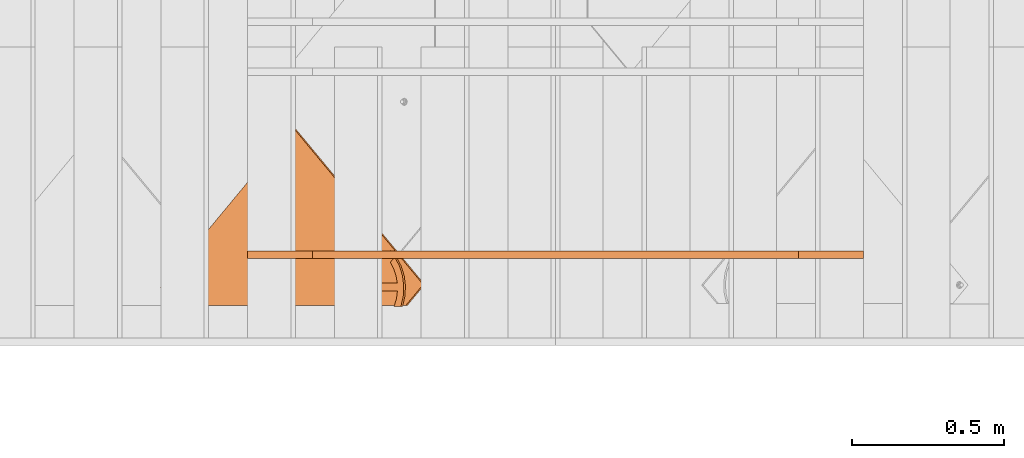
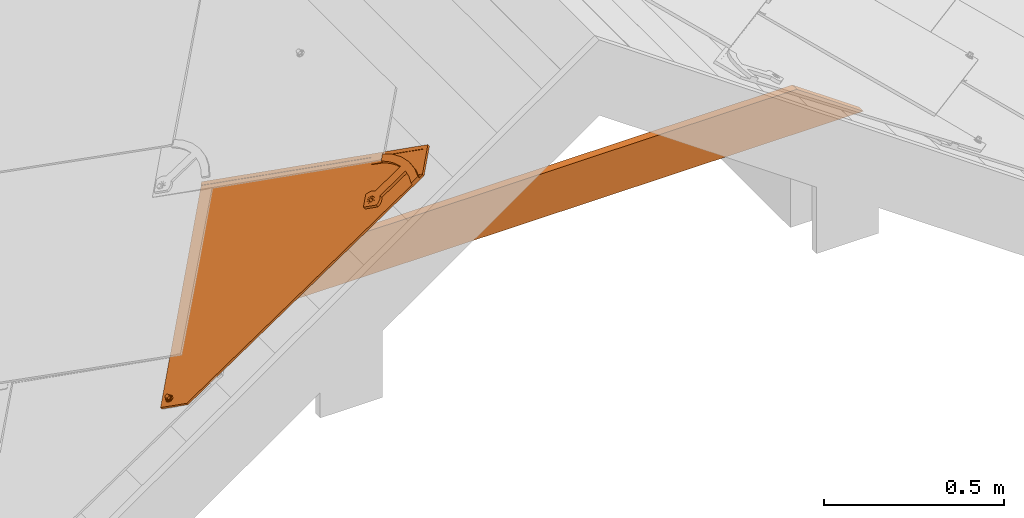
# One storey, part 13 of 151: 2 proxies, 1 element without a shape of its own.
"""IFC2X3 building model written with IfcOpenShell, lengths in millimetres."""

from ifc_helpers import new_model, entity, si_unit, converted_unit, derived_unit, direction, frame, origin, place, context, subcontext, project, spatial, polyline, outline, extrude, faceted_brep, source, transform, mapped, material, material_list, type_object, type_shapes, element, aggregate, save


model = new_model("IFC2X3")

# Units and contexts
model_context = context("Model", 3, precision=0.01, world=origin(), true_north=direction((6.12303176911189e-17, 1.0)))
body_context = subcontext(model_context, "Body", "Model", "MODEL_VIEW")
ifc_project = project(units=[si_unit("LENGTHUNIT", "METRE", prefix="MILLI"), si_unit("AREAUNIT", "SQUARE_METRE"), si_unit("VOLUMEUNIT", "CUBIC_METRE"), converted_unit("PLANEANGLEUNIT", "DEGREE", entity("IfcRatioMeasure", 0.0174532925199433), si_unit("PLANEANGLEUNIT", "RADIAN"), dimensions=[0, 0, 0, 0, 0, 0, 0]), si_unit("MASSUNIT", "GRAM", prefix="KILO"), derived_unit("MASSDENSITYUNIT", [(si_unit("MASSUNIT", "GRAM", prefix="KILO"), 1), (si_unit("LENGTHUNIT", "METRE"), -3)]), si_unit("TIMEUNIT", "SECOND"), si_unit("FREQUENCYUNIT", "HERTZ"), si_unit("THERMODYNAMICTEMPERATUREUNIT", "DEGREE_CELSIUS"), derived_unit("THERMALTRANSMITTANCEUNIT", [(si_unit("MASSUNIT", "GRAM", prefix="KILO"), 1), (si_unit("THERMODYNAMICTEMPERATUREUNIT", "KELVIN"), -1), (si_unit("TIMEUNIT", "SECOND"), -3)]), derived_unit("VOLUMETRICFLOWRATEUNIT", [(si_unit("LENGTHUNIT", "METRE"), 3), (si_unit("TIMEUNIT", "SECOND"), -1)]), si_unit("ELECTRICCURRENTUNIT", "AMPERE"), si_unit("ELECTRICVOLTAGEUNIT", "VOLT"), si_unit("POWERUNIT", "WATT"), si_unit("FORCEUNIT", "NEWTON", prefix="KILO"), si_unit("ILLUMINANCEUNIT", "LUX"), si_unit("LUMINOUSFLUXUNIT", "LUMEN"), si_unit("LUMINOUSINTENSITYUNIT", "CANDELA"), derived_unit("USERDEFINED", [(si_unit("MASSUNIT", "GRAM", prefix="KILO"), -1), (si_unit("LENGTHUNIT", "METRE"), -2), (si_unit("TIMEUNIT", "SECOND"), 3), (si_unit("LUMINOUSFLUXUNIT", "LUMEN"), 1)]), derived_unit("LINEARVELOCITYUNIT", [(si_unit("LENGTHUNIT", "METRE"), 1), (si_unit("TIMEUNIT", "SECOND"), -1)]), si_unit("PRESSUREUNIT", "PASCAL"), derived_unit("USERDEFINED", [(si_unit("LENGTHUNIT", "METRE"), -2), (si_unit("MASSUNIT", "GRAM", prefix="KILO"), 1), (si_unit("TIMEUNIT", "SECOND"), -2)])], contexts=[model_context])

# Site, building, storey
site_placement = place(None, origin())
site = spatial("IfcSite", under=ifc_project, at=site_placement, Name="Default", CompositionType="ELEMENT")
building_placement = place(site_placement, origin())
building = spatial("IfcBuilding", under=site, at=building_placement, CompositionType="ELEMENT")
storey_placement = place(building_placement, origin())
storey = spatial("IfcBuildingStorey", under=building, at=storey_placement, Name="Level 1", CompositionType="ELEMENT", Elevation=0.0)

# Assembly, proxy
assembly_placement = place(storey_placement, origin())
assembly = element("IfcElementAssembly", 1, at=assembly_placement, inside=storey, Name="Structural Framing Assembly:Roof Construction Assembly", ObjectType="Structural Framing Assembly:Roof Construction Assembly", AssemblyPlace="NOTDEFINED", PredefinedType="USERDEFINED")
ifc_material_1 = material(Name="Wood - Generic - Wood For Showcase")
building_element_proxy_type_1 = type_object("IfcBuildingElementProxyType", Name="Structural Framing 296", PredefinedType="NOTDEFINED", material=ifc_material_1)
shared_shape_1 = source(origin(), body_context, "Body", "SweptSolid", [
    extrude(outline(polyline([(-1014.04699829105, -75.0), (1014.04699829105, -75.0), (799.824797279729, 75.0), (-799.824797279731, 75.0), (-1014.04699829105, -75.0)])), frame((1206.77890726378, 2325.55080214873, 2164.95664769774), z_axis=(0.0, 1.0, 0.0), x_axis=(-1.0, 0.0, 0.0)), (0.0, 0.0, 1.0), 25.0),
])
type_shapes(building_element_proxy_type_1, [shared_shape_1])
proxy_1_placement = place(assembly_placement, frame((57.4878711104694, -8767.49999999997, 0.0)))
proxy_1 = element("IfcBuildingElementProxy", 2, at=proxy_1_placement, type_object=building_element_proxy_type_1, material=ifc_material_1, Name="Structural Framing 322:Structural Framing 296", ObjectType="Structural Framing 322:Structural Framing 296", context=body_context, shape_type="MappedRepresentation", body=[
    mapped(shared_shape_1, transform((0.0, 0.0, 0.0), scale=1.0)),
])
aggregate(assembly, [proxy_1])

# Proxy
ifc_material_2 = material(Name="Rubber - Sunstyle - Black")
ifc_material_3 = material(Name="Glass - Sunstyle - Tainted Black")
ifc_material_list_1 = material_list([ifc_material_2, ifc_material_3])
ifc_material_list_2 = material_list([ifc_material_2, ifc_material_3])
building_element_proxy_type_2 = type_object("IfcBuildingElementProxyType", Name="Shingle Right - Black", PredefinedType="NOTDEFINED", material=ifc_material_list_2)
shared_shape_2 = source(origin(), body_context, "Body", "Brep", [
    faceted_brep([(526.70519509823, 41.3127833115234, 3.87722628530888), (520.930992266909, 37.9795131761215, 3.9330502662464), (520.930992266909, 38.34782226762, 25.9249196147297), (526.70519509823, 41.6810924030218, 25.8690956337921), (520.930992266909, 31.3129729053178, 4.0446982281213), (520.930992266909, 31.6812819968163, 26.0365675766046), (526.70519509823, 27.979702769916, 4.1005222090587), (526.70519509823, 28.3480118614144, 26.092391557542), (532.47939792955, 31.3129729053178, 4.04469822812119), (532.47939792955, 31.6812819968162, 26.0365675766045), (532.47939792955, 37.9795131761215, 3.93305026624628), (532.47939792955, 38.3478222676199, 25.9249196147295), (518.101490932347, 26.4120542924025, 26.1248140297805), (526.70519509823, 22.8487830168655, 26.1844899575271), (514.537719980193, 35.0145521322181, 25.9807435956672), (518.101490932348, 43.6170499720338, 25.8366731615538), (526.70519509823, 47.1803212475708, 25.776997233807), (535.308899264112, 43.6170499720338, 25.8366731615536), (538.872670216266, 35.0145521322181, 25.9807435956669), (535.308899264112, 26.4120542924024, 26.1248140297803), (515.380950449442, 37.3096292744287, 28.2935855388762), (516.94872054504, 35.0855670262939, 30.2210682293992), (526.70519509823, 42.3986422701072, 30.8537686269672), (526.70519509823, 43.6391399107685, 30.2734219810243), (526.70519509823, 45.7966907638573, 29.2640469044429), (526.70519509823, 23.4048270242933, 27.4595479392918), (526.70519509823, 24.3484036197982, 29.6232523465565), (526.70519509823, 27.7977793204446, 31.0982967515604), (526.70519509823, 46.6672851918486, 27.0699596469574), (520.381949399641, 31.4479950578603, 31.0371647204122), (520.381949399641, 38.7484265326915, 30.9149006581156), (538.029439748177, 32.7982090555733, 28.3691406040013), (536.554075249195, 34.0111605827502, 30.1422000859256), (533.028440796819, 38.7484265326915, 30.9149006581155), (533.028440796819, 31.4479950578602, 31.0371647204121), (520.381949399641, 31.5820235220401, 39.0400528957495), (526.70519509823, 27.9318077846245, 39.1011849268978), (526.70519509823, 35.2322392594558, 38.9789208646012), (520.381949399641, 38.8824549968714, 38.9177888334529), (533.028440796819, 31.5820235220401, 39.0400528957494), (533.028440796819, 38.8824549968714, 38.9177888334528), (526.70519509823, 42.532670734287, 38.8566568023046), (526.70519509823, 34.6462430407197, 3.98887424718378)], [[[0, 1, 2, 3]], [[1, 4, 5, 2]], [[4, 6, 7, 5]], [[6, 8, 9, 7]], [[8, 10, 11, 9]], [[10, 0, 3, 11]], [[12, 7, 13]], [[7, 12, 5]], [[14, 5, 12]], [[5, 14, 2]], [[15, 2, 14]], [[3, 2, 15]], [[15, 16, 3]], [[16, 17, 3]], [[11, 3, 17]], [[11, 17, 18]], [[9, 11, 18]], [[18, 19, 9]], [[7, 9, 19]], [[19, 13, 7]], [[20, 14, 12]], [[21, 22, 23, 24]], [[24, 20, 21]], [[25, 20, 12]], [[26, 27, 21]], [[15, 14, 20]], [[12, 13, 25]], [[20, 28, 15]], [[28, 20, 24]], [[21, 27, 29]], [[21, 29, 30]], [[26, 21, 20]], [[20, 25, 26]], [[15, 28, 16]], [[21, 30, 22]], [[31, 18, 17]], [[28, 31, 17]], [[32, 27, 26]], [[26, 31, 32]], [[26, 25, 31]], [[25, 19, 31]], [[17, 16, 28]], [[31, 19, 18]], [[24, 31, 28]], [[33, 34, 32]], [[23, 22, 33]], [[24, 32, 31]], [[27, 32, 34]], [[32, 23, 33]], [[19, 25, 13]], [[32, 24, 23]], [[35, 36, 37]], [[37, 38, 35]], [[36, 39, 37]], [[40, 37, 39]], [[37, 40, 41]], [[37, 41, 38]], [[42, 6, 4]], [[4, 1, 42]], [[1, 0, 42]], [[42, 8, 6]], [[0, 10, 42]], [[8, 42, 10]], [[22, 30, 38, 41]], [[30, 29, 35, 38]], [[29, 27, 36, 35]], [[27, 34, 39, 36]], [[34, 33, 40, 39]], [[33, 22, 41, 40]]]),
    faceted_brep([(526.70519509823, 811.19100538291, 21.4210230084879), (526.70519509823, 815.690374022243, 21.3456697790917), (518.101490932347, 814.754276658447, 21.3613470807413), (535.308899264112, 814.754276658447, 21.3613470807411), (533.345423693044, 819.523574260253, 21.2814732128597), (538.872670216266, 823.356774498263, 21.2172766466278), (533.345423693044, 827.189974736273, 21.1530800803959), (535.308899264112, 831.959272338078, 21.0732062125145), (526.70519509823, 831.023174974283, 21.0888835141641), (526.70519509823, 835.522543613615, 21.0135302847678), (518.101490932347, 831.959272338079, 21.0732062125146), (520.064966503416, 827.189974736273, 21.1530800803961), (514.537719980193, 823.356774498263, 21.217276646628), (520.064966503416, 819.523574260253, 21.2814732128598), (520.064966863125, 826.922051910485, 5.15532344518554), (526.70519509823, 830.755251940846, 5.09112688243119), (520.064966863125, 819.255651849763, 5.2837165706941), (526.70519509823, 815.422451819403, 5.34791313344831), (533.345423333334, 819.255651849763, 5.28371657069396), (533.345423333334, 826.922051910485, 5.1553234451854), (518.101490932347, 814.486354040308, 5.36359044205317), (526.70519509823, 810.923082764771, 5.4232663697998), (514.537719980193, 823.088851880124, 5.21952000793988), (518.101490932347, 831.69134971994, 5.07544957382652), (526.70519509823, 835.254620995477, 5.01577364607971), (535.308899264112, 831.69134971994, 5.07544957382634), (538.872670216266, 823.088851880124, 5.21952000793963), (535.308899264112, 814.486354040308, 5.36359044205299)], [[[0, 1, 2]], [[1, 0, 3]], [[3, 4, 1]], [[4, 3, 5]], [[6, 4, 5]], [[5, 7, 6]], [[7, 8, 6]], [[8, 7, 9]], [[8, 9, 10]], [[10, 11, 8]], [[12, 11, 10]], [[2, 13, 12]], [[12, 13, 11]], [[13, 2, 1]], [[8, 11, 14, 15]], [[11, 13, 16, 14]], [[13, 1, 17, 16]], [[1, 4, 18, 17]], [[4, 6, 19, 18]], [[6, 8, 15, 19]], [[20, 17, 21]], [[17, 20, 16]], [[22, 16, 20]], [[14, 16, 22]], [[23, 14, 22]], [[15, 14, 23]], [[23, 24, 15]], [[24, 25, 15]], [[19, 15, 25]], [[19, 25, 26]], [[26, 18, 19]], [[26, 27, 18]], [[17, 18, 27]], [[27, 21, 17]], [[24, 23, 10, 9]], [[10, 23, 22, 12]], [[20, 21, 0, 2]], [[20, 2, 12, 22]], [[21, 27, 3, 0]], [[3, 27, 26, 5]], [[25, 24, 9, 7]], [[25, 7, 5, 26]]]),
    faceted_brep([(578.30986553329, 967.15023469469, 8.79467739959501), (586.794551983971, 975.634921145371, 8.65258001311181), (586.794551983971, 975.660038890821, 10.1523696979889), (578.30986553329, 967.17535244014, 10.294467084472), (517.891471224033, 1027.55168765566, 7.7831033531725), (8.48468645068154, 518.287740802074, 16.3120073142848), (0.0, 526.772427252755, 16.1699099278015), (517.891471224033, 1044.51868144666, 7.49894842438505), (517.891471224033, 1044.54379919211, 8.99873810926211), (0.0, 526.797544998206, 17.6696996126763), (8.4846864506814, 518.312858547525, 17.8117969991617), (517.891471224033, 1027.57680540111, 9.28289303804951)], [[[0, 1, 2, 3]], [[1, 0, 4, 5, 6, 7]], [[2, 1, 7, 8]], [[3, 2, 8, 9, 10, 11]], [[0, 3, 11, 4]], [[5, 10, 9, 6]], [[8, 7, 6, 9]], [[4, 11, 10, 5]]]),
    faceted_brep([(586.794551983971, 975.634921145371, 8.65258001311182), (517.891471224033, 1044.51868144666, 7.49894842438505), (523.812678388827, 834.561085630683, 11.0152157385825), (526.918506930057, 834.969918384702, 11.0083688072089), (530.024335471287, 834.561085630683, 11.0152157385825), (532.918506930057, 833.362448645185, 11.0352899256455), (535.403788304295, 831.455692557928, 11.0672233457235), (537.31081177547, 828.970759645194, 11.1088397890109), (538.509616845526, 826.076993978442, 11.1573031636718), (538.918506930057, 822.971600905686, 11.2093107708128), (538.509616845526, 819.86620783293, 11.2613183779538), (586.79455198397, 60.1087646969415, 23.9853651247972), (520.918506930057, 833.362448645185, 11.0352899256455), (518.433225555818, 831.455692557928, 11.0672233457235), (516.526202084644, 828.970759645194, 11.1088397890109), (515.327397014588, 826.076993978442, 11.1573031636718), (0.0, 526.772427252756, 16.1699099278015), (514.918506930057, 822.971600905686, 11.2093107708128), (515.327397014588, 819.86620783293, 11.2613183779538), (516.526202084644, 816.972442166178, 11.3097817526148), (518.433225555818, 814.487509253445, 11.3513981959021), (520.918506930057, 812.580753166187, 11.3833316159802), (523.812678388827, 811.382116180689, 11.4034058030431), (524.667140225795, 42.642731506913, 24.2778777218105), (522.737692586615, 41.8436401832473, 24.2912605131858), (521.080838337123, 40.572469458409, 24.3125494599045), (519.80948935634, 38.9158475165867, 24.3402937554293), (519.010285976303, 36.9866704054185, 24.37260267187), (518.737692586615, 34.9164083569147, 24.407274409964), (519.010285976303, 32.8461463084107, 24.441946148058), (526.794551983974, 0.125588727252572, 24.989934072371), (519.80948935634, 30.9169691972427, 24.4742550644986), (533.665895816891, 30.9169691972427, 24.4742550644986), (532.394546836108, 29.2603472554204, 24.5019993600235), (530.737692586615, 27.9891765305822, 24.5232883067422), (528.808244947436, 27.1900852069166, 24.5366710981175), (526.737692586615, 26.9175300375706, 24.5412357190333), (524.667140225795, 27.1900852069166, 24.5366710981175), (522.737692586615, 27.9891765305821, 24.5232883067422), (521.080838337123, 29.2603472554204, 24.5019993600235), (526.737692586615, 42.9152866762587, 24.2733131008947), (528.808244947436, 42.6427315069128, 24.2778777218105), (530.737692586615, 41.8436401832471, 24.2912605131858), (532.394546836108, 40.572469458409, 24.3125494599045), (533.665895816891, 38.9158475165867, 24.3402937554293), (534.465099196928, 36.9866704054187, 24.37260267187), (534.737692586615, 34.9164083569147, 24.407274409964), (534.465099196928, 32.8461463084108, 24.441946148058), (526.918506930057, 810.97328342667, 11.4102527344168), (537.31081177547, 816.972442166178, 11.3097817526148), (535.403788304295, 814.487509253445, 11.3513981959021), (532.918506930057, 812.580753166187, 11.3833316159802), (530.024335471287, 811.382116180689, 11.4034058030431), (0.0, 526.646838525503, 8.67096150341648), (519.80948935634, 38.790258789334, 16.8413453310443), (519.010285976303, 36.8610816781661, 16.8736542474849), (521.080838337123, 40.4468807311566, 16.8136010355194), (518.737692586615, 34.7908196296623, 16.9083259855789), (519.010285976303, 32.7205575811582, 16.9429977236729), (526.794551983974, 0.0, 17.4909856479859), (522.737692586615, 41.7180514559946, 16.7923120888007), (524.667140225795, 42.5171427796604, 16.7789292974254), (523.812678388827, 811.256527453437, 3.90445737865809), (520.918506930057, 812.455164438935, 3.88438319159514), (518.433225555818, 814.361920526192, 3.85244977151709), (516.526202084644, 816.846853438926, 3.81083332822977), (515.327397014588, 819.740619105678, 3.76236995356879), (514.918506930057, 822.846012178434, 3.71036234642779), (515.327397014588, 825.95140525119, 3.65835473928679), (517.891471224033, 1044.39309271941, 0.0), (516.526202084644, 828.845170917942, 3.60989136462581), (518.433225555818, 831.330103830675, 3.56827492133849), (520.918506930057, 833.236859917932, 3.53634150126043), (523.812678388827, 834.435496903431, 3.51626731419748), (586.794551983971, 975.509332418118, 1.15363158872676), (526.918506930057, 834.84432965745, 3.50942038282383), (530.024335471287, 834.435496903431, 3.51626731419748), (532.918506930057, 833.236859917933, 3.53634150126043), (535.403788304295, 831.330103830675, 3.56827492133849), (537.31081177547, 828.845170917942, 3.60989136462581), (538.509616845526, 825.95140525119, 3.65835473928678), (538.918506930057, 822.846012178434, 3.71036234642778), (538.509616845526, 819.740619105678, 3.76236995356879), (586.79455198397, 59.983175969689, 16.4864167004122), (526.737692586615, 42.7896979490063, 16.7743646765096), (528.808244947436, 42.5171427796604, 16.7789292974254), (530.737692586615, 41.7180514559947, 16.7923120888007), (532.394546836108, 40.4468807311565, 16.8136010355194), (533.665895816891, 30.7913804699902, 16.9753066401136), (534.465099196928, 32.7205575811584, 16.9429977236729), (534.737692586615, 34.7908196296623, 16.9083259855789), (534.465099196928, 36.8610816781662, 16.8736542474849), (533.665895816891, 38.7902587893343, 16.8413453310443), (526.918506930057, 810.847694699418, 3.91130431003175), (530.024335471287, 811.256527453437, 3.90445737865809), (532.918506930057, 812.455164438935, 3.88438319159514), (535.403788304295, 814.361920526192, 3.85244977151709), (537.31081177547, 816.846853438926, 3.81083332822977), (519.80948935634, 30.7913804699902, 16.9753066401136), (521.080838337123, 29.134758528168, 17.0030509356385), (522.737692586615, 27.8635878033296, 17.0243398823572), (524.667140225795, 27.0644964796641, 17.0377226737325), (526.737692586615, 26.7919413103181, 17.0422872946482), (528.808244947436, 27.0644964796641, 17.0377226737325), (530.737692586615, 27.8635878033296, 17.0243398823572), (532.394546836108, 29.1347585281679, 17.0030509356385)], [[[0, 1, 2]], [[0, 2, 3]], [[3, 4, 0]], [[4, 5, 0]], [[0, 5, 6]], [[6, 7, 0]], [[7, 8, 0]], [[8, 9, 0]], [[9, 10, 0]], [[0, 10, 11]], [[2, 1, 12]], [[13, 12, 1]], [[14, 13, 1]], [[14, 1, 15]], [[15, 1, 16]], [[16, 17, 15]], [[17, 16, 18]], [[19, 18, 16]], [[19, 16, 20]], [[21, 20, 16]], [[22, 21, 16]], [[23, 22, 16]], [[24, 23, 16]], [[16, 25, 24]], [[25, 16, 26]], [[26, 16, 27]], [[28, 27, 16]], [[28, 16, 29]], [[29, 16, 30]], [[30, 31, 29]], [[11, 32, 30]], [[30, 32, 33]], [[34, 30, 33]], [[34, 35, 30]], [[36, 30, 35]], [[30, 36, 37]], [[37, 38, 30]], [[38, 39, 30]], [[39, 31, 30]], [[23, 11, 22]], [[11, 23, 40]], [[11, 40, 41]], [[11, 41, 42]], [[42, 43, 11]], [[44, 11, 43]], [[44, 45, 11]], [[45, 46, 11]], [[47, 11, 46]], [[11, 47, 32]], [[22, 11, 48]], [[10, 49, 11]], [[49, 50, 11]], [[50, 51, 11]], [[51, 52, 11]], [[52, 48, 11]], [[53, 54, 55]], [[54, 53, 56]], [[53, 55, 57]], [[57, 58, 53]], [[53, 58, 59]], [[60, 56, 53]], [[61, 60, 53]], [[61, 53, 62]], [[62, 53, 63]], [[53, 64, 63]], [[64, 53, 65]], [[65, 53, 66]], [[66, 53, 67]], [[67, 53, 68]], [[53, 69, 68]], [[70, 68, 69]], [[71, 70, 69]], [[69, 72, 71]], [[73, 72, 69]], [[73, 69, 74]], [[75, 73, 74]], [[75, 74, 76]], [[77, 76, 74]], [[74, 78, 77]], [[79, 78, 74]], [[80, 79, 74]], [[80, 74, 81]], [[81, 74, 82]], [[82, 74, 83]], [[84, 61, 83]], [[83, 85, 84]], [[86, 85, 83]], [[83, 87, 86]], [[59, 88, 83]], [[83, 88, 89]], [[90, 83, 89]], [[90, 91, 83]], [[91, 92, 83]], [[87, 83, 92]], [[62, 83, 61]], [[93, 83, 62]], [[83, 93, 94]], [[94, 95, 83]], [[83, 95, 96]], [[96, 97, 83]], [[97, 82, 83]], [[59, 58, 98]], [[99, 59, 98]], [[99, 100, 59]], [[100, 101, 59]], [[102, 59, 101]], [[59, 102, 103]], [[59, 103, 104]], [[104, 105, 59]], [[105, 88, 59]], [[16, 1, 69, 53]], [[30, 16, 53, 59]], [[11, 30, 59, 83]], [[1, 0, 74, 69]], [[28, 57, 55, 27]], [[27, 55, 54, 26]], [[24, 25, 56, 60]], [[56, 25, 26, 54]], [[23, 24, 60, 61]], [[23, 61, 84, 40]], [[40, 84, 85, 41]], [[41, 85, 86, 42]], [[44, 43, 87, 92]], [[87, 43, 42, 86]], [[45, 44, 92, 91]], [[45, 91, 90, 46]], [[46, 90, 89, 47]], [[47, 89, 88, 32]], [[34, 33, 105, 104]], [[105, 33, 32, 88]], [[35, 34, 104, 103]], [[35, 103, 102, 36]], [[36, 102, 101, 37]], [[37, 101, 100, 38]], [[31, 39, 99, 98]], [[39, 38, 100, 99]], [[58, 29, 31, 98]], [[29, 58, 57, 28]], [[17, 67, 68, 15]], [[15, 68, 70, 14]], [[12, 13, 71, 72]], [[71, 13, 14, 70]], [[2, 12, 72, 73]], [[2, 73, 75, 3]], [[3, 75, 76, 4]], [[4, 76, 77, 5]], [[7, 6, 78, 79]], [[78, 6, 5, 77]], [[8, 7, 79, 80]], [[8, 80, 81, 9]], [[9, 81, 82, 10]], [[10, 82, 97, 49]], [[51, 50, 96, 95]], [[96, 50, 49, 97]], [[52, 51, 95, 94]], [[52, 94, 93, 48]], [[48, 93, 62, 22]], [[22, 62, 63, 21]], [[19, 20, 64, 65]], [[64, 20, 21, 63]], [[18, 19, 65, 66]], [[18, 66, 67, 17]], [[0, 11, 83, 74]]]),
    faceted_brep([(503.195324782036, 841.557074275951, 20.8994526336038), (517.914693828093, 832.008099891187, 21.0593741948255), (507.695869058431, 846.190079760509, 20.8218613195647), (516.007670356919, 829.523166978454, 21.1009906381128), (499.815755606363, 836.052923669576, 20.9916334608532), (514.808865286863, 826.629401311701, 21.1494540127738), (497.720422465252, 829.943523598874, 21.0939507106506), (514.399975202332, 823.524008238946, 21.2014616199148), (497.010547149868, 823.524008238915, 21.2014616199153), (514.808865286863, 820.41861516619, 21.2534692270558), (516.007670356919, 817.524849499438, 21.3019326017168), (517.914693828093, 815.039916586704, 21.3435490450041), (526.399975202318, 794.138700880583, 21.6935924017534), (520.399975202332, 813.133160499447, 21.3754824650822), (523.294146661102, 811.934523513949, 21.3955566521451), (526.399975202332, 811.52569075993, 21.4024035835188), (529.505803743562, 811.934523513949, 21.3955566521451), (532.399975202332, 813.133160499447, 21.3754824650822), (534.885256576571, 815.039916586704, 21.3435490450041), (555.789403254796, 823.524008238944, 21.2014616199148), (536.792280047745, 817.524849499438, 21.3019326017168), (537.991085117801, 820.41861516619, 21.2534692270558), (538.399975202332, 823.524008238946, 21.2014616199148), (555.079527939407, 829.943523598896, 21.0939507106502), (537.991085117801, 826.629401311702, 21.1494540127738), (552.984194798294, 836.052923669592, 20.9916334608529), (536.792280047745, 829.523166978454, 21.1009906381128), (549.604625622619, 841.557074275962, 20.8994526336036), (534.88525657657, 832.008099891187, 21.0593741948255), (545.104081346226, 846.190079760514, 20.8218613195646), (532.399975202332, 833.914855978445, 21.0274407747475), (539.69997520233, 849.728127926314, 20.7626078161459), (529.505803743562, 835.113492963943, 21.0073665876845), (526.399975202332, 835.522325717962, 21.0005196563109), (513.09997520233, 849.728127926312, 20.762607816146), (513.099975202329, 947.789128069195, 19.1203300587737), (539.699975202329, 948.373752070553, 19.1105390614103), (522.252457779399, 973.425526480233, 18.6909841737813), (556.520926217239, 971.308509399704, 18.7264389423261), (565.239246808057, 944.126992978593, 19.1816617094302), (589.568348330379, 961.999667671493, 18.8823388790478), (589.568348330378, 935.274464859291, 19.3299195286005), (488.310294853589, 968.25512753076, 18.7775754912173), (488.729131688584, 942.717602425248, 19.2052654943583), (456.227055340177, 956.030775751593, 18.9823029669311), (465.633151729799, 933.432284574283, 19.3607714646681), (444.534595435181, 920.223666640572, 19.5819829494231), (427.451419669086, 937.304447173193, 19.2959223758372), (520.399975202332, 833.914855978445, 21.0274407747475), (523.294146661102, 835.113492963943, 21.0073665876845), (526.399975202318, 793.971249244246, 11.6949945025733), (526.399975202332, 811.358239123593, 11.4038056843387), (529.505803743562, 811.767071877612, 11.396958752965), (523.294146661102, 811.767071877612, 11.396958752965), (532.399975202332, 812.96570886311, 11.3768845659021), (534.885256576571, 814.872464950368, 11.344951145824), (555.789403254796, 823.356556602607, 11.2028637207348), (520.399975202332, 812.96570886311, 11.3768845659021), (517.914693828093, 814.872464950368, 11.344951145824), (497.010547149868, 823.356556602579, 11.2028637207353), (516.007670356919, 817.357397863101, 11.3033347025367), (514.808865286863, 820.251163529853, 11.2548713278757), (514.399975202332, 823.356556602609, 11.2028637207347), (497.720422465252, 829.776071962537, 11.0953528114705), (514.808865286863, 826.461949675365, 11.1508561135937), (499.815755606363, 835.885472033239, 10.9930355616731), (516.007670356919, 829.355715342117, 11.1023927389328), (503.195324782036, 841.389622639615, 10.9008547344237), (517.914693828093, 831.84064825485, 11.0607762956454), (507.695869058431, 846.022628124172, 10.8232634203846), (520.399975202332, 833.747404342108, 11.0288428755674), (513.09997520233, 849.560676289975, 10.7640099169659), (523.294146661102, 834.946041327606, 11.0087686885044), (526.399975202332, 835.354874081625, 11.0019217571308), (539.69997520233, 849.560676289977, 10.7640099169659), (513.099975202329, 947.621676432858, 9.12173215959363), (539.69997520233, 948.206300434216, 9.11194116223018), (522.252457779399, 973.258074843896, 8.69238627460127), (488.310294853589, 968.087675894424, 8.77897759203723), (488.729131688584, 942.550150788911, 9.20666759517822), (456.227055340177, 955.863324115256, 8.98370506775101), (465.633151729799, 933.264832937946, 9.36217356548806), (444.533467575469, 920.055518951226, 9.58339670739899), (428.044288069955, 936.544210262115, 9.30725215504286), (421.793762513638, 931.184466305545, 9.39701453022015), (415.826529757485, 925.515365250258, 9.49195786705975), (418.207622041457, 893.733364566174, 10.0242272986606), (401.122816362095, 910.815774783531, 9.73813943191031), (427.451419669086, 937.136995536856, 9.29732447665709), (556.520926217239, 971.141057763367, 8.727841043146), (565.239246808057, 943.959541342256, 9.18306381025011), (589.568348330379, 961.832216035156, 8.88374097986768), (589.568348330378, 935.107013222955, 9.33132162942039), (529.505803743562, 834.946041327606, 11.0087686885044), (532.399975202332, 833.747404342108, 11.0288428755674), (545.104081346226, 846.022628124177, 10.8232634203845), (534.88525657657, 831.84064825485, 11.0607762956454), (549.604625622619, 841.389622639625, 10.9008547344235), (536.792280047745, 829.355715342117, 11.1023927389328), (552.984194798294, 835.885472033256, 10.9930355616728), (537.991085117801, 826.461949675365, 11.1508561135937), (555.079527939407, 829.77607196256, 11.0953528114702), (538.399975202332, 823.356556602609, 11.2028637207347), (537.991085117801, 820.251163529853, 11.2548713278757), (536.792280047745, 817.357397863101, 11.3033347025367), (415.826529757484, 925.557228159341, 11.9916073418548), (401.122816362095, 910.857637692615, 12.2377889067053), (418.207622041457, 893.775227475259, 12.5238767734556), (444.534595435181, 920.09807791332, 12.083034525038), (428.042008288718, 936.584216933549, 11.8069327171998), (421.793762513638, 931.226329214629, 11.8966640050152)], [[[0, 1, 2]], [[3, 1, 0]], [[4, 3, 0]], [[5, 3, 4]], [[4, 6, 5]], [[6, 7, 5]], [[7, 6, 8]], [[9, 7, 8]], [[10, 9, 8]], [[10, 8, 11]], [[8, 12, 11]], [[13, 11, 12]], [[13, 12, 14]], [[12, 15, 14]], [[15, 12, 16]], [[16, 12, 17]], [[18, 17, 12]], [[18, 12, 19]], [[19, 20, 18]], [[21, 20, 19]], [[22, 21, 19]], [[19, 23, 22]], [[24, 22, 23]], [[23, 25, 24]], [[25, 26, 24]], [[26, 25, 27]], [[28, 26, 27]], [[27, 29, 28]], [[30, 28, 29]], [[29, 31, 30]], [[30, 31, 32]], [[32, 31, 33]], [[31, 34, 33]], [[35, 34, 31]], [[35, 31, 36]], [[36, 37, 35]], [[36, 38, 37]], [[39, 38, 36]], [[38, 39, 40]], [[41, 40, 39]], [[37, 42, 35]], [[35, 42, 43]], [[43, 42, 44]], [[44, 45, 43]], [[44, 46, 45]], [[46, 44, 47]], [[48, 34, 2]], [[48, 49, 34]], [[34, 49, 33]], [[48, 2, 1]], [[50, 51, 52]], [[51, 50, 53]], [[50, 52, 54]], [[54, 55, 50]], [[50, 55, 56]], [[57, 53, 50]], [[58, 57, 50]], [[58, 50, 59]], [[59, 60, 58]], [[60, 59, 61]], [[61, 59, 62]], [[63, 62, 59]], [[64, 62, 63]], [[63, 65, 64]], [[64, 65, 66]], [[65, 67, 66]], [[68, 66, 67]], [[69, 68, 67]], [[69, 70, 68]], [[70, 69, 71]], [[71, 72, 70]], [[71, 73, 72]], [[74, 73, 71]], [[71, 75, 74]], [[75, 76, 74]], [[76, 75, 77]], [[77, 75, 78]], [[79, 78, 75]], [[80, 78, 79]], [[79, 81, 80]], [[81, 82, 80]], [[82, 83, 80]], [[84, 83, 82]], [[84, 82, 85]], [[82, 86, 85]], [[86, 87, 85]], [[83, 88, 80]], [[76, 77, 89]], [[89, 90, 76]], [[90, 89, 91]], [[91, 92, 90]], [[93, 73, 74]], [[74, 94, 93]], [[94, 74, 95]], [[95, 96, 94]], [[95, 97, 96]], [[96, 97, 98]], [[99, 98, 97]], [[99, 100, 98]], [[101, 100, 99]], [[102, 100, 101]], [[56, 102, 101]], [[103, 102, 56]], [[56, 55, 104]], [[103, 56, 104]], [[34, 35, 75, 71]], [[2, 34, 71, 69]], [[0, 2, 69, 67]], [[67, 65, 4, 0]], [[6, 4, 65, 63]], [[8, 6, 63, 59]], [[12, 8, 59, 50]], [[19, 12, 50, 56]], [[23, 19, 56, 101]], [[25, 23, 101, 99]], [[99, 97, 27, 25]], [[29, 27, 97, 95]], [[31, 29, 95, 74]], [[36, 31, 74, 76]], [[38, 40, 91, 89]], [[37, 38, 89, 77]], [[77, 78, 42, 37]], [[44, 42, 78, 80]], [[47, 44, 80, 88]], [[7, 62, 64, 5]], [[5, 64, 66, 3]], [[48, 1, 68, 70]], [[66, 68, 1, 3]], [[49, 48, 70, 72]], [[73, 33, 49, 72]], [[32, 93, 94, 30]], [[30, 94, 96, 28]], [[24, 26, 98, 100]], [[96, 98, 26, 28]], [[22, 24, 100, 102]], [[32, 33, 73, 93]], [[22, 102, 103, 21]], [[21, 103, 104, 20]], [[17, 18, 55, 54]], [[104, 55, 18, 20]], [[16, 17, 54, 52]], [[51, 15, 16, 52]], [[14, 53, 57, 13]], [[13, 57, 58, 11]], [[9, 10, 60, 61]], [[58, 60, 10, 11]], [[7, 9, 61, 62]], [[14, 15, 51, 53]], [[105, 106, 107, 108, 109, 110]], [[107, 106, 87, 86]], [[108, 107, 82]], [[86, 82, 107]], [[109, 83, 110]], [[110, 83, 84]], [[84, 85, 105, 110]], [[106, 105, 85, 87]], [[46, 47, 109]], [[109, 47, 88]], [[46, 109, 108]], [[83, 109, 88]], [[108, 81, 45, 46]], [[108, 82, 81]], [[79, 75, 35, 43]], [[81, 79, 43, 45]], [[76, 90, 39, 36]], [[92, 41, 39, 90]], [[40, 41, 92, 91]]]),
])
type_shapes(building_element_proxy_type_2, [shared_shape_2])
proxy_2_placement = place(storey_placement, frame((-22.129613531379, -6009.57585974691, 1929.93256820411), z_axis=(-0.57357643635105, 0.0, 0.819152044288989), x_axis=(0.0, -1.0, 0.0)))
element("IfcBuildingElementProxy", 3, at=proxy_2_placement, inside=storey, type_object=building_element_proxy_type_2, material=ifc_material_list_1, Name="Roofing_Panels_SunStyle_Tile_Shingle-Right:Shingle Right - Black", ObjectType="Roofing_Panels_SunStyle_Tile_Shingle-Right:Shingle Right - Black", context=body_context, shape_type="MappedRepresentation", body=[
    mapped(shared_shape_2, transform((0.0, 0.0, 0.0), scale=1.0)),
])

save(model, "model.ifc")
